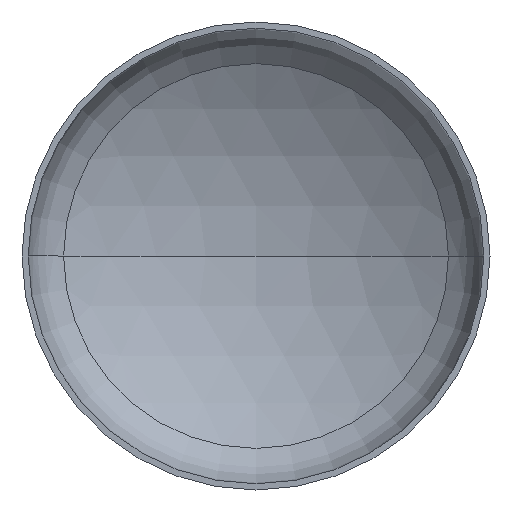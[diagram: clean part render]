
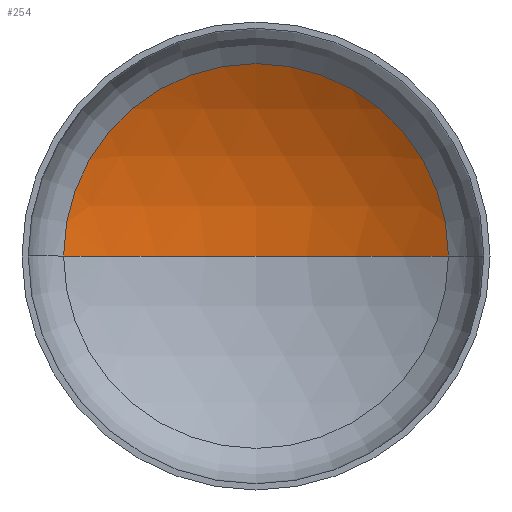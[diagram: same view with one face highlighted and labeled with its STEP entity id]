
A CAD part, front view. The second image highlights one B-rep face of the part: STEP entity #254.
In plain terms, the highlighted spherical face has radius 720 mm.
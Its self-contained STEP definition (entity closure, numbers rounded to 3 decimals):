
#7 = VERTEX_POINT ( 'NONE', #345 ) ;
#11 = ORIENTED_EDGE ( 'NONE', *, *, #381, .F. ) ;
#14 = EDGE_LOOP ( 'NONE', ( #11, #82, #37 ) ) ;
#15 = AXIS2_PLACEMENT_3D ( 'NONE', #377, #235, #398 ) ;
#37 = ORIENTED_EDGE ( 'NONE', *, *, #350, .T. ) ;
#38 = VERTEX_POINT ( 'NONE', #228 ) ;
#48 = VERTEX_POINT ( 'NONE', #261 ) ;
#50 = AXIS2_PLACEMENT_3D ( 'NONE', #160, #233, #139 ) ;
#64 = DIRECTION ( 'NONE',  ( 0., 0., -1. ) ) ;
#82 = ORIENTED_EDGE ( 'NONE', *, *, #385, .T. ) ;
#107 = AXIS2_PLACEMENT_3D ( 'NONE', #260, #64, #187 ) ;
#139 = DIRECTION ( 'NONE',  ( -1., 0., 0. ) ) ;
#142 = DIRECTION ( 'NONE',  ( 1., 0., 0. ) ) ;
#160 = CARTESIAN_POINT ( 'NONE',  ( 0., -457.59, 0. ) ) ;
#187 = DIRECTION ( 'NONE',  ( -1., 0., 0. ) ) ;
#202 = FACE_OUTER_BOUND ( 'NONE', #14, .T. ) ;
#226 = CIRCLE ( 'NONE', #376, 720. ) ;
#228 = CARTESIAN_POINT ( 'NONE',  ( 0., 262.41, 0. ) ) ;
#233 = DIRECTION ( 'NONE',  ( 0., 0., -1. ) ) ;
#235 = DIRECTION ( 'NONE',  ( 0., -1., 0. ) ) ;
#254 = ADVANCED_FACE ( 'NONE', ( #202 ), #390, .F. ) ;
#260 = CARTESIAN_POINT ( 'NONE',  ( 0., -457.59, 0. ) ) ;
#261 = CARTESIAN_POINT ( 'NONE',  ( -369.931, 160.108, 0. ) ) ;
#279 = DIRECTION ( 'NONE',  ( 0., 0., 1. ) ) ;
#292 = CIRCLE ( 'NONE', #15, 369.931 ) ;
#345 = CARTESIAN_POINT ( 'NONE',  ( 369.931, 160.108, 0. ) ) ;
#350 = EDGE_CURVE ( 'NONE', #7, #48, #292, .T. ) ;
#354 = CIRCLE ( 'NONE', #107, 720. ) ;
#362 = CARTESIAN_POINT ( 'NONE',  ( 0., -457.59, 0. ) ) ;
#376 = AXIS2_PLACEMENT_3D ( 'NONE', #362, #279, #142 ) ;
#377 = CARTESIAN_POINT ( 'NONE',  ( 0., 160.108, 0. ) ) ;
#381 = EDGE_CURVE ( 'NONE', #38, #48, #226, .T. ) ;
#385 = EDGE_CURVE ( 'NONE', #38, #7, #354, .T. ) ;
#390 = SPHERICAL_SURFACE ( 'NONE', #50, 720. ) ;
#398 = DIRECTION ( 'NONE',  ( 1., 0., 0. ) ) ;
